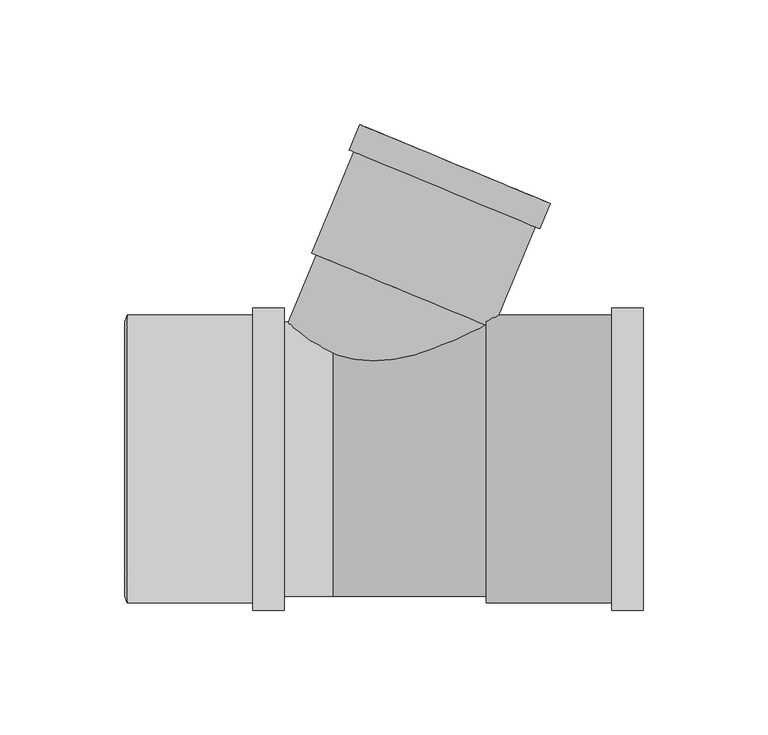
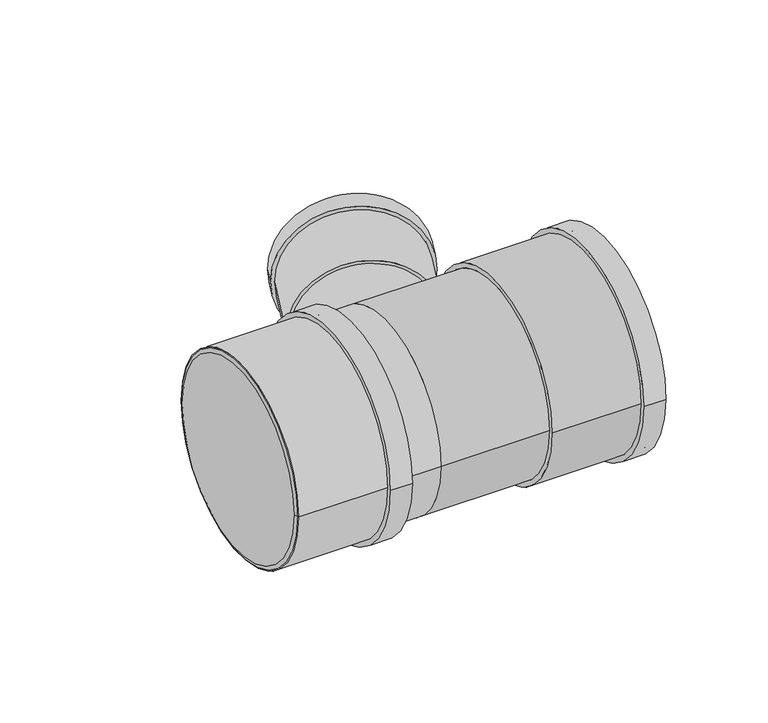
"""IFC4 building model written with IfcOpenShell, lengths in millimetres: pipe fitting geometry, Superdrain HTEA Branch : Superdrain HTEA Branch."""

from ifc_helpers import new_model, si_unit, point, frame, origin, origin_2d, place, context, project, spatial, polyline, circle_curve, trimmed, segment, composite_curve, outline, extrude, source, transform, mapped, element, save
from ifc_brep_helpers import plane_surface, revolved_surface, advanced_brep


def pipe_fitting_acc12e6a(model_context):
    return source(origin(), model_context, "Body", "SolidModel", [
        extrude(outline(composite_curve([segment(trimmed(circle_curve(origin_2d(), 57.75), [point((57.75, 0.0))], [point((-57.75, 0.0))], False, "CARTESIAN"), True, "CONTINUOUS"), segment(trimmed(circle_curve(origin_2d(), 57.75), [point((-57.75, 0.0))], [point((57.75, 0.0))], False, "CARTESIAN"), True, "CONTINUOUS")], self_intersect=False), holes=[composite_curve([segment(trimmed(circle_curve(origin_2d(), 55.0), [point((55.0, 0.0))], [point((-55.0, 0.0))], True, "CARTESIAN"), True, "CONTINUOUS"), segment(trimmed(circle_curve(origin_2d(), 55.0), [point((-55.0, 0.0))], [point((55.0, 0.0))], True, "CARTESIAN"), True, "CONTINUOUS")], self_intersect=False)]), frame((-82.4, 0.0, 0.0), z_axis=(1.0, 0.0, 0.0), x_axis=(0.0, 1.0, 0.0)), (0.0, 0.0, 1.0), 63.0),
        extrude(outline(composite_curve([segment(trimmed(circle_curve(origin_2d(), 60.6375), [point((60.6375, 0.0))], [point((-60.6375, 0.0))], False, "CARTESIAN"), True, "CONTINUOUS"), segment(trimmed(circle_curve(origin_2d(), 60.6375), [point((-60.6375, 0.0))], [point((60.6375, 0.0))], False, "CARTESIAN"), True, "CONTINUOUS")], self_intersect=False), holes=[composite_curve([segment(trimmed(circle_curve(origin_2d(), 55.0), [point((55.0, 0.0))], [point((-55.0, 0.0))], True, "CARTESIAN"), True, "CONTINUOUS"), segment(trimmed(circle_curve(origin_2d(), 55.0), [point((-55.0, 0.0))], [point((55.0, 0.0))], True, "CARTESIAN"), True, "CONTINUOUS")], self_intersect=False)]), frame((-32.0, 0.0, 0.0), z_axis=(1.0, 0.0, 0.0), x_axis=(0.0, 1.0, 0.0)), (0.0, 0.0, 1.0), 12.6),
        advanced_brep(
        [(-83.4, 55.0, 0.0), (-83.4, -55.0, 0.0), (-82.4, 57.75, 0.0), (-82.4, -57.75, 0.0)],
        [
            (0, 1, circle_curve(frame((-83.4, 0.0, 0.0), z_axis=(-1.0, 0.0, 0.0), x_axis=(0.0, 1.0, 0.0)), 55.0)),
            (1, 0, circle_curve(frame((-83.4, 0.0, 0.0), z_axis=(-1.0, 0.0, 0.0), x_axis=(0.0, -1.0, 0.0)), 55.0)),
            (2, 3, circle_curve(frame((-82.4, 0.0, 0.0), z_axis=(1.0, 0.0, 0.0), x_axis=(0.0, -1.0, 0.0)), 57.75)),
            (3, 2, circle_curve(frame((-82.4, 0.0, 0.0), z_axis=(1.0, 0.0, 0.0), x_axis=(0.0, 1.0, 0.0)), 57.75)),
            (3, 1),
            (0, 2),
        ],
        [
            plane_surface(frame((-83.4, 0.0, 0.0), z_axis=(-1.0, 0.0, 0.0), x_axis=(0.0, 0.0, -1.0))),
            plane_surface(frame((-82.4, 0.0, 0.0), z_axis=(1.0, 0.0, 0.0), x_axis=(0.0, 0.0, -1.0))),
            revolved_surface(polyline([(-83.4, 55.0, 0.0), (-82.4, 57.75, 0.0)]), (-103.4, 0.0, 0.0), (1.0, 0.0, 0.0)),
            revolved_surface(polyline([(-83.4, -55.0, 0.0), (-82.4, -57.75, 0.0)]), (-103.4, 0.0, 0.0), (1.0, 0.0, 0.0)),
        ],
        [
            (0, [[1, 2]]),
            (1, [[3, 4]]),
            (2, [[-4, 5, -1, 6]]),
            (3, [[-3, -6, -2, -5]]),
        ],
    ),
        extrude(outline(composite_curve([segment(trimmed(circle_curve(origin_2d(), 57.75), [point((-57.75, 0.0))], [point((57.75, 0.0))], False, "CARTESIAN"), True, "CONTINUOUS"), segment(trimmed(circle_curve(origin_2d(), 57.75), [point((57.75, 0.0))], [point((-57.75, 0.0))], False, "CARTESIAN"), True, "CONTINUOUS")], self_intersect=False), holes=[composite_curve([segment(trimmed(circle_curve(origin_2d(), 55.0), [point((55.0, 0.0))], [point((-55.0, 0.0))], True, "CARTESIAN"), True, "CONTINUOUS"), segment(trimmed(circle_curve(origin_2d(), 55.0), [point((-55.0, 0.0))], [point((55.0, 0.0))], True, "CARTESIAN"), True, "CONTINUOUS")], self_intersect=False)]), frame((61.6, 0.0, 0.0), z_axis=(1.0, 0.0, 0.0), x_axis=(0.0, 1.0, 0.0)), (0.0, 0.0, 1.0), 63.0),
        extrude(outline(composite_curve([segment(trimmed(circle_curve(origin_2d(), 60.6375), [point((60.6375, 0.0))], [point((-60.6375, 0.0))], False, "CARTESIAN"), True, "CONTINUOUS"), segment(trimmed(circle_curve(origin_2d(), 60.6375), [point((-60.6375, 0.0))], [point((60.6375, 0.0))], False, "CARTESIAN"), True, "CONTINUOUS")], self_intersect=False), holes=[composite_curve([segment(trimmed(circle_curve(origin_2d(), 55.0), [point((55.0, 0.0))], [point((-55.0, 0.0))], True, "CARTESIAN"), True, "CONTINUOUS"), segment(trimmed(circle_curve(origin_2d(), 55.0), [point((-55.0, 0.0))], [point((55.0, 0.0))], True, "CARTESIAN"), True, "CONTINUOUS")], self_intersect=False)]), frame((112.0, 0.0, 0.0), z_axis=(1.0, 0.0, 0.0), x_axis=(0.0, 1.0, 0.0)), (0.0, 0.0, 1.0), 12.6),
        extrude(outline(composite_curve([segment(trimmed(circle_curve(origin_2d(), 37.5), [point((0.0, 37.5))], [point((0.0, -37.5))], False, "CARTESIAN"), True, "CONTINUOUS"), segment(trimmed(circle_curve(origin_2d(), 37.5), [point((0.0, -37.5))], [point((0.0, 37.5))], False, "CARTESIAN"), True, "CONTINUOUS")], self_intersect=False)), frame((0.0, 0.0, 0.0), z_axis=(0.3826834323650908, 0.9238795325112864, 0.0), x_axis=(0.0, 0.0, 1.0)), (0.0, 0.0, 1.0), 73.2),
        extrude(outline(composite_curve([segment(trimmed(circle_curve(origin_2d(), 55.0), [point((55.0, 0.0))], [point((-55.0, 0.0))], False, "CARTESIAN"), True, "CONTINUOUS"), segment(trimmed(circle_curve(origin_2d(), 55.0), [point((-55.0, 0.0))], [point((55.0, 0.0))], False, "CARTESIAN"), True, "CONTINUOUS")], self_intersect=False)), frame((-82.4, 0.0, 0.0), z_axis=(1.0, 0.0, 0.0), x_axis=(0.0, 1.0, 0.0)), (0.0, 0.0, 1.0), 82.4),
        extrude(outline(composite_curve([segment(trimmed(circle_curve(origin_2d(), 55.0), [point((-55.0, 0.0))], [point((55.0, 0.0))], False, "CARTESIAN"), True, "CONTINUOUS"), segment(trimmed(circle_curve(origin_2d(), 55.0), [point((55.0, 0.0))], [point((-55.0, 0.0))], False, "CARTESIAN"), True, "CONTINUOUS")], self_intersect=False)), frame((0.0, 0.0, 0.0), z_axis=(1.0, 0.0, 0.0), x_axis=(0.0, 1.0, 0.0)), (0.0, 0.0, 1.0), 61.6),
        extrude(outline(composite_curve([segment(trimmed(circle_curve(origin_2d(), 41.34375), [point((0.0, 41.34375))], [point((0.0, -41.34375))], False, "CARTESIAN"), True, "CONTINUOUS"), segment(trimmed(circle_curve(origin_2d(), 41.34375), [point((0.0, -41.34375))], [point((0.0, 41.34375))], False, "CARTESIAN"), True, "CONTINUOUS")], self_intersect=False), holes=[composite_curve([segment(trimmed(circle_curve(origin_2d(), 37.5), [point((0.0, 37.4999999))], [point((0.0, -37.5))], True, "CARTESIAN"), True, "CONTINUOUS"), segment(trimmed(circle_curve(origin_2d(), 37.5), [point((0.0, -37.5))], [point((0.0, 37.4999999))], True, "CARTESIAN"), True, "CONTINUOUS")], self_intersect=False)]), frame((44.8504983, 108.2786812, 0.0), z_axis=(0.382683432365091, 0.9238795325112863, 0.0), x_axis=(0.0, 0.0, 1.0)), (0.0, 0.0, 1.0), 11.0),
        extrude(outline(composite_curve([segment(trimmed(circle_curve(origin_2d(), 39.375), [point((0.0, 39.375))], [point((0.0, -39.3749999))], False, "CARTESIAN"), True, "CONTINUOUS"), segment(trimmed(circle_curve(origin_2d(), 39.375), [point((0.0, -39.3749999))], [point((0.0, 39.375))], False, "CARTESIAN"), True, "CONTINUOUS")], self_intersect=False), holes=[composite_curve([segment(trimmed(circle_curve(origin_2d(), 37.5), [point((0.0, 37.5))], [point((0.0, -37.4999999))], True, "CARTESIAN"), True, "CONTINUOUS"), segment(trimmed(circle_curve(origin_2d(), 37.5), [point((0.0, -37.4999999))], [point((0.0, 37.5))], True, "CARTESIAN"), True, "CONTINUOUS")], self_intersect=False)]), frame((28.0124272, 67.6279818, 0.0), z_axis=(0.38268343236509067, 0.9238795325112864, 0.0), x_axis=(0.0, 0.0, 1.0)), (0.0, 0.0, 1.0), 55.0),
    ])


if __name__ == "__main__":
    model = new_model("IFC4")
    model_context = context("Model", 3, world=origin())
    ifc_project = project(units=[si_unit("LENGTHUNIT", "METRE", prefix="MILLI")], contexts=[model_context])
    site = spatial("IfcSite", under=ifc_project)
    building = spatial("IfcBuilding", under=site)
    placement = place(None, origin())
    pipe_fitting_shape = pipe_fitting_acc12e6a(model_context)
    element("IfcPipeFitting", 1, ObjectType="Superdrain HTEA Branch : Superdrain HTEA Branch", at=placement, inside=building, context=model_context, shape_type="MappedRepresentation", body=[
        mapped(pipe_fitting_shape, transform((0.0, 0.0, 0.0), x_axis=(1.0, 0.0, 0.0), y_axis=(0.0, 1.0, 0.0), z_axis=(0.0, 0.0, 1.0))),
    ])
    save(model, "model.ifc")
